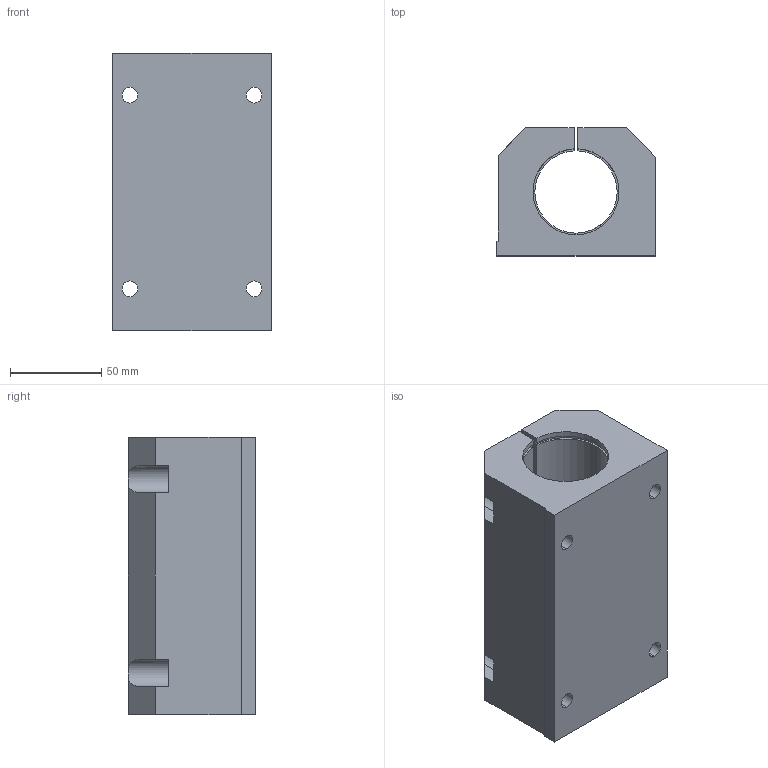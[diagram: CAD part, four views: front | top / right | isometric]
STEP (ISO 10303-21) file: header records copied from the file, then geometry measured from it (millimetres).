
FILE_DESCRIPTION (( 'STEP AP214' ), '1' );
FILE_NAME ('KTGE32-30.step', '2020-03-04T13:27:35', ( '' ), ( '' ), 'SwSTEP 2.0', 'SolidWorks 2019', '' );
FILE_SCHEMA (( 'AUTOMOTIVE_DESIGN' ));
Length unit declared in the file: millimetre
Products named in the file (1): KTGE32-30
Bounding box: 87 x 70 x 152 mm (x, y, z)
Volume: 583165.1 mm3; surface area: 88707.4 mm2
Topology: 1 solids, 1 shells, 92 faces, 256 edges, 166 vertices
Faces by surface type: cylinder 49, plane 37, cone 6
Entity records: 3218 total; most frequent: CARTESIAN_POINT 613, DIRECTION 516, ORIENTED_EDGE 504, EDGE_CURVE 252, AXIS2_PLACEMENT_3D 185, VERTEX_POINT 166, LINE 146, VECTOR 146
